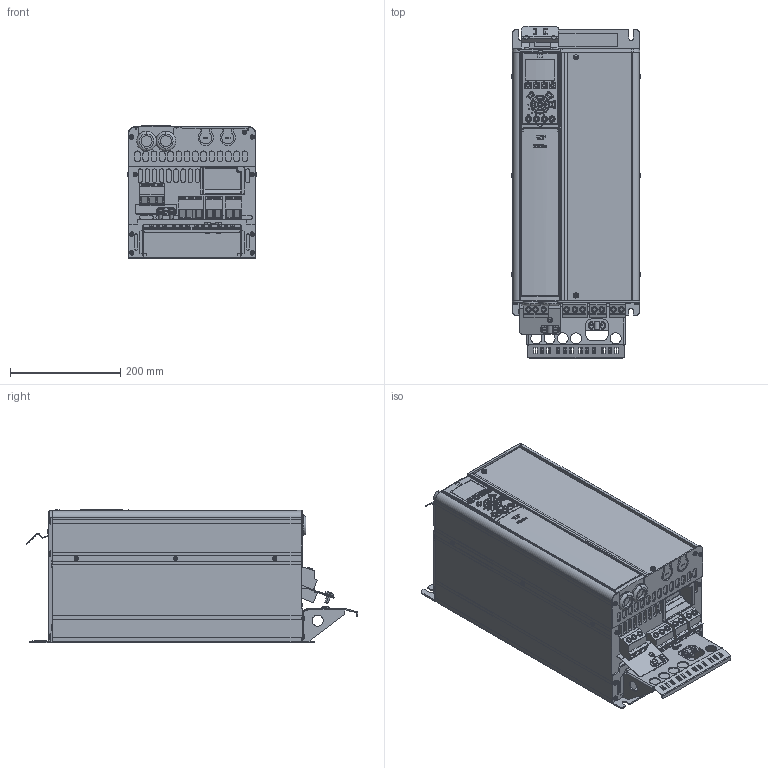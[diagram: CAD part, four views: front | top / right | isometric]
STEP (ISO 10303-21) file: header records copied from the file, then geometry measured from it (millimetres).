
FILE_DESCRIPTION((''),'2;1');
FILE_NAME('DANFOSS-FC100-B4-IP20-OPT-118','2007-07-10T',('Naushad.pm'),('dan Drives A/S'),'PRO/ENGINEER BY PARAMETRIC TECHNOLOGY CORPORATION, 2006200','PRO/ENGINEER BY PARAMETRIC TECHNOLOGY CORPORATION, 2006200','');
FILE_SCHEMA(('CONFIG_CONTROL_DESIGN', 'GEOMETRIC_VALIDATION_PROPERTIES_MIM'));
Products named in the file (1): DANFOSS-FC100-B4-IP20-OPT-118
Bounding box: 236 x 602.49 x 242.01 mm (x, y, z)
Volume: 21995107 mm3; surface area: 1402438.5 mm2
Topology: 1 solids, 31 shells, 4599 faces, 12246 edges, 7825 vertices
Faces by surface type: plane 2553, cylinder 1156, bspline 487, torus 161, extrusion 88, cone 78, sphere 76
Entity records: 189713 total; most frequent: CARTESIAN_POINT 64091, ORIENTED_EDGE 24332, DIRECTION 20051, EDGE_CURVE 12166, VERTEX_POINT 7825, VECTOR 6845, LINE 6757, AXIS2_PLACEMENT_3D 6603
